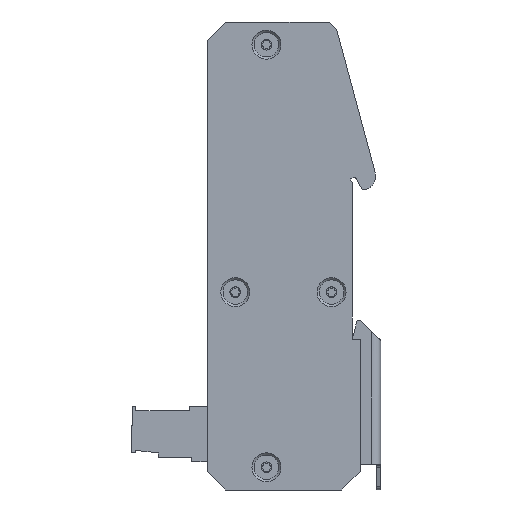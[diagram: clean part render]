
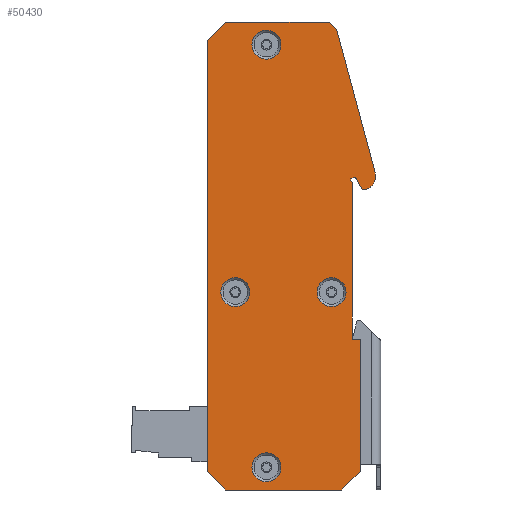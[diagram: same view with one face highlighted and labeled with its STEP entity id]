
A CAD part, left-side view. The second image highlights one B-rep face of the part: STEP entity #50430.
In plain terms, the highlighted planar face has unit normal (-1, 0, 0).
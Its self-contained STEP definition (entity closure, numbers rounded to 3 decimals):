
#49952=CARTESIAN_POINT('',(-21.,-16.4,-48.4));
#49953=VERTEX_POINT('',#49952);
#49954=CARTESIAN_POINT('',(-21.,-16.4,-18.65));
#49955=VERTEX_POINT('',#49954);
#49956=CARTESIAN_POINT('',(-21.,-16.4,-48.4));
#49957=DIRECTION('',(0.,0.,1.));
#49958=VECTOR('',#49957,29.75);
#49959=LINE('',#49956,#49958);
#49960=EDGE_CURVE('',#49953,#49955,#49959,.T.);
#49984=CARTESIAN_POINT('',(-21.,-12.3,-52.5));
#49985=VERTEX_POINT('',#49984);
#49986=CARTESIAN_POINT('',(-21.,-12.3,-52.5));
#49987=DIRECTION('',(-0.,-0.707,0.707));
#49988=VECTOR('',#49987,5.798);
#49989=LINE('',#49986,#49988);
#49990=EDGE_CURVE('',#49985,#49953,#49989,.T.);
#50009=CARTESIAN_POINT('',(-21.,13.8,-52.5));
#50010=VERTEX_POINT('',#50009);
#50011=CARTESIAN_POINT('',(-21.,13.8,-52.5));
#50012=DIRECTION('',(-0.,-1.,0.));
#50013=VECTOR('',#50012,26.1);
#50014=LINE('',#50011,#50013);
#50015=EDGE_CURVE('',#50010,#49985,#50014,.T.);
#50034=CARTESIAN_POINT('',(-21.,17.9,-48.4));
#50035=VERTEX_POINT('',#50034);
#50036=CARTESIAN_POINT('',(-21.,17.9,-48.4));
#50037=DIRECTION('',(-0.,-0.707,-0.707));
#50038=VECTOR('',#50037,5.798);
#50039=LINE('',#50036,#50038);
#50040=EDGE_CURVE('',#50035,#50010,#50039,.T.);
#50059=CARTESIAN_POINT('',(-21.,17.9,48.4));
#50060=VERTEX_POINT('',#50059);
#50061=CARTESIAN_POINT('',(-21.,17.9,48.4));
#50062=DIRECTION('',(0.,0.,-1.));
#50063=VECTOR('',#50062,96.8);
#50064=LINE('',#50061,#50063);
#50065=EDGE_CURVE('',#50060,#50035,#50064,.T.);
#50084=CARTESIAN_POINT('',(-21.,13.8,52.5));
#50085=VERTEX_POINT('',#50084);
#50086=CARTESIAN_POINT('',(-21.,13.8,52.5));
#50087=DIRECTION('',(0.,0.707,-0.707));
#50088=VECTOR('',#50087,5.798);
#50089=LINE('',#50086,#50088);
#50090=EDGE_CURVE('',#50085,#50060,#50089,.T.);
#50109=CARTESIAN_POINT('',(-21.,-9.5,52.5));
#50110=VERTEX_POINT('',#50109);
#50111=CARTESIAN_POINT('',(-21.,-9.5,52.5));
#50112=DIRECTION('',(0.,1.,0.));
#50113=VECTOR('',#50112,23.3);
#50114=LINE('',#50111,#50113);
#50115=EDGE_CURVE('',#50110,#50085,#50114,.T.);
#50134=CARTESIAN_POINT('',(-21.,-11.141,50.859));
#50135=VERTEX_POINT('',#50134);
#50136=CARTESIAN_POINT('',(-21.,-11.141,50.859));
#50137=DIRECTION('',(0.,0.707,0.707));
#50138=VECTOR('',#50137,2.32);
#50139=LINE('',#50136,#50138);
#50140=EDGE_CURVE('',#50135,#50110,#50139,.T.);
#50159=CARTESIAN_POINT('',(-21.,-19.797,18.628));
#50160=VERTEX_POINT('',#50159);
#50161=CARTESIAN_POINT('',(-21.,-19.797,18.628));
#50162=DIRECTION('',(0.,0.259,0.966));
#50163=VECTOR('',#50162,33.373);
#50164=LINE('',#50161,#50163);
#50165=EDGE_CURVE('',#50160,#50135,#50164,.T.);
#50184=CARTESIAN_POINT('',(-21.,-16.9,14.85));
#50185=VERTEX_POINT('',#50184);
#50194=CARTESIAN_POINT('',(-21.,-16.9,17.85));
#50195=DIRECTION('',(-1.,0.,0.));
#50196=DIRECTION('',(0.,1.,0.));
#50197=AXIS2_PLACEMENT_3D('',#50194,#50195,#50196);
#50198=CIRCLE('',#50197,3.);
#50199=EDGE_CURVE('',#50185,#50160,#50198,.T.);
#50210=CARTESIAN_POINT('',(-21.,-15.503,17.409));
#50211=VERTEX_POINT('',#50210);
#50212=CARTESIAN_POINT('',(-21.,-16.863,14.85));
#50213=VERTEX_POINT('',#50212);
#50214=CARTESIAN_POINT('',(-21.,-15.503,17.409));
#50215=DIRECTION('',(-0.,-0.469,-0.883));
#50216=VECTOR('',#50215,2.897);
#50217=LINE('',#50214,#50216);
#50218=EDGE_CURVE('',#50211,#50213,#50217,.T.);
#50242=CARTESIAN_POINT('',(-21.,-14.826,17.615));
#50243=VERTEX_POINT('',#50242);
#50244=CARTESIAN_POINT('',(-21.,-15.061,17.174));
#50245=DIRECTION('',(1.,-0.,0.));
#50246=DIRECTION('',(0.,1.,0.));
#50247=AXIS2_PLACEMENT_3D('',#50244,#50245,#50246);
#50248=CIRCLE('',#50247,0.5);
#50249=EDGE_CURVE('',#50243,#50211,#50248,.T.);
#50268=CARTESIAN_POINT('',(-21.,-14.208,17.287));
#50269=VERTEX_POINT('',#50268);
#50270=CARTESIAN_POINT('',(-21.,-14.208,17.287));
#50271=DIRECTION('',(-0.,-0.883,0.469));
#50272=VECTOR('',#50271,0.7);
#50273=LINE('',#50270,#50272);
#50274=EDGE_CURVE('',#50269,#50243,#50273,.T.);
#50293=CARTESIAN_POINT('',(-21.,-14.6,16.55));
#50294=VERTEX_POINT('',#50293);
#50295=CARTESIAN_POINT('',(-21.,-14.6,16.55));
#50296=DIRECTION('',(0.,0.469,0.883));
#50297=VECTOR('',#50296,0.834);
#50298=LINE('',#50295,#50297);
#50299=EDGE_CURVE('',#50294,#50269,#50298,.T.);
#50318=CARTESIAN_POINT('',(-21.,-14.6,-18.65));
#50319=VERTEX_POINT('',#50318);
#50320=CARTESIAN_POINT('',(-21.,-14.6,-18.65));
#50321=DIRECTION('',(-0.,-0.,1.));
#50322=VECTOR('',#50321,35.2);
#50323=LINE('',#50320,#50322);
#50324=EDGE_CURVE('',#50319,#50294,#50323,.T.);
#50343=CARTESIAN_POINT('',(-21.,-16.4,-18.65));
#50344=DIRECTION('',(0.,1.,0.));
#50345=VECTOR('',#50344,1.8);
#50346=LINE('',#50343,#50345);
#50347=EDGE_CURVE('',#49955,#50319,#50346,.T.);
#50356=CARTESIAN_POINT('',(-21.,0.75,0.));
#50357=DIRECTION('',(-1.,0.,0.));
#50358=DIRECTION('',(-0.,-1.,0.));
#50359=AXIS2_PLACEMENT_3D('',#50356,#50357,#50358);
#50360=PLANE('',#50359);
#50361=CARTESIAN_POINT('',(-21.,4.6,50.65));
#50362=VERTEX_POINT('',#50361);
#50363=CARTESIAN_POINT('',(-21.,4.6,47.4));
#50364=DIRECTION('',(1.,-0.,0.));
#50365=DIRECTION('',(0.,0.,1.));
#50366=AXIS2_PLACEMENT_3D('',#50363,#50364,#50365);
#50367=CIRCLE('',#50366,3.25);
#50368=EDGE_CURVE('',#50362,#50362,#50367,.T.);
#50369=ORIENTED_EDGE('',*,*,#50368,.T.);
#50370=EDGE_LOOP('',(#50369));
#50371=FACE_BOUND('',#50370,.T.);
#50372=CARTESIAN_POINT('',(-21.,-10.,-4.85));
#50373=VERTEX_POINT('',#50372);
#50374=CARTESIAN_POINT('',(-21.,-10.,-8.1));
#50375=DIRECTION('',(1.,-0.,0.));
#50376=DIRECTION('',(0.,0.,1.));
#50377=AXIS2_PLACEMENT_3D('',#50374,#50375,#50376);
#50378=CIRCLE('',#50377,3.25);
#50379=EDGE_CURVE('',#50373,#50373,#50378,.T.);
#50380=ORIENTED_EDGE('',*,*,#50379,.T.);
#50381=EDGE_LOOP('',(#50380));
#50382=FACE_BOUND('',#50381,.T.);
#50383=CARTESIAN_POINT('',(-21.,4.6,-44.15));
#50384=VERTEX_POINT('',#50383);
#50385=CARTESIAN_POINT('',(-21.,4.6,-47.4));
#50386=DIRECTION('',(1.,-0.,0.));
#50387=DIRECTION('',(0.,0.,1.));
#50388=AXIS2_PLACEMENT_3D('',#50385,#50386,#50387);
#50389=CIRCLE('',#50388,3.25);
#50390=EDGE_CURVE('',#50384,#50384,#50389,.T.);
#50391=ORIENTED_EDGE('',*,*,#50390,.T.);
#50392=EDGE_LOOP('',(#50391));
#50393=FACE_BOUND('',#50392,.T.);
#50394=CARTESIAN_POINT('',(-21.,11.6,-4.85));
#50395=VERTEX_POINT('',#50394);
#50396=CARTESIAN_POINT('',(-21.,11.6,-8.1));
#50397=DIRECTION('',(1.,-0.,0.));
#50398=DIRECTION('',(0.,0.,1.));
#50399=AXIS2_PLACEMENT_3D('',#50396,#50397,#50398);
#50400=CIRCLE('',#50399,3.25);
#50401=EDGE_CURVE('',#50395,#50395,#50400,.T.);
#50402=ORIENTED_EDGE('',*,*,#50401,.T.);
#50403=EDGE_LOOP('',(#50402));
#50404=FACE_BOUND('',#50403,.T.);
#50405=ORIENTED_EDGE('',*,*,#49960,.T.);
#50406=ORIENTED_EDGE('',*,*,#50347,.T.);
#50407=ORIENTED_EDGE('',*,*,#50324,.T.);
#50408=ORIENTED_EDGE('',*,*,#50299,.T.);
#50409=ORIENTED_EDGE('',*,*,#50274,.T.);
#50410=ORIENTED_EDGE('',*,*,#50249,.T.);
#50411=ORIENTED_EDGE('',*,*,#50218,.T.);
#50412=CARTESIAN_POINT('',(-21.,-16.9,17.85));
#50413=DIRECTION('',(-1.,0.,0.));
#50414=DIRECTION('',(0.,1.,0.));
#50415=AXIS2_PLACEMENT_3D('',#50412,#50413,#50414);
#50416=CIRCLE('',#50415,3.);
#50417=EDGE_CURVE('',#50213,#50185,#50416,.T.);
#50418=ORIENTED_EDGE('',*,*,#50417,.T.);
#50419=ORIENTED_EDGE('',*,*,#50199,.T.);
#50420=ORIENTED_EDGE('',*,*,#50165,.T.);
#50421=ORIENTED_EDGE('',*,*,#50140,.T.);
#50422=ORIENTED_EDGE('',*,*,#50115,.T.);
#50423=ORIENTED_EDGE('',*,*,#50090,.T.);
#50424=ORIENTED_EDGE('',*,*,#50065,.T.);
#50425=ORIENTED_EDGE('',*,*,#50040,.T.);
#50426=ORIENTED_EDGE('',*,*,#50015,.T.);
#50427=ORIENTED_EDGE('',*,*,#49990,.T.);
#50428=EDGE_LOOP('',(#50405,#50406,#50407,#50408,#50409,#50410,#50411,#50418,#50419,#50420,#50421,#50422,#50423,#50424,#50425,#50426,#50427));
#50429=FACE_BOUND('',#50428,.T.);
#50430=ADVANCED_FACE('',(#50371,#50382,#50393,#50404,#50429),#50360,.T.);
